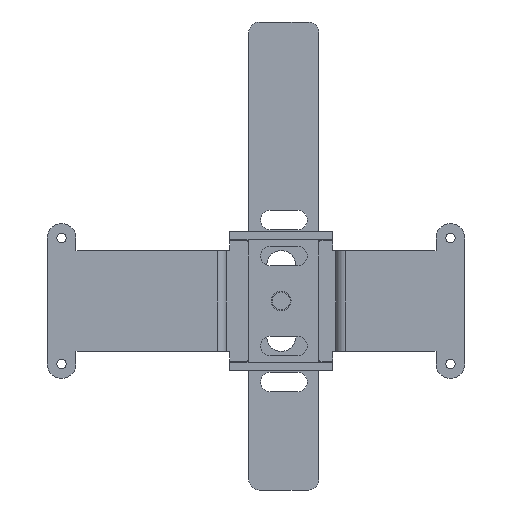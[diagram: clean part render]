
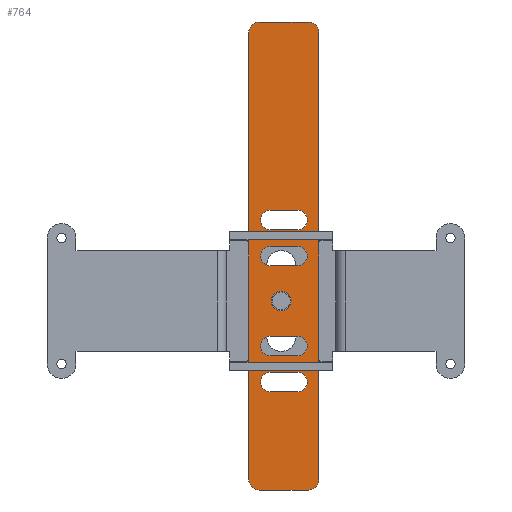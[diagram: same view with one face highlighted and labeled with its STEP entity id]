
A CAD part, front view. The second image highlights one B-rep face of the part: STEP entity #764.
In plain terms, the highlighted planar face has unit normal (0, -1, 0) as drawn and (0, 0, 1) by its records, which use the part's own axes.
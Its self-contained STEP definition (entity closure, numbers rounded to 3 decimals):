
#587=FACE_BOUND('',#1093,.T.);
#588=FACE_BOUND('',#1094,.T.);
#589=FACE_BOUND('',#1095,.T.);
#590=FACE_BOUND('',#1096,.T.);
#591=FACE_BOUND('',#1097,.T.);
#592=FACE_BOUND('',#1098,.T.);
#644=PLANE('',#3269);
#764=ADVANCED_FACE('',(#587,#588,#589,#590,#591,#592),#644,.T.);
#1093=EDGE_LOOP('',(#1843,#1844,#1845,#1846,#1847,#1848,#1849,#1850));
#1094=EDGE_LOOP('',(#1851,#1852));
#1095=EDGE_LOOP('',(#1853,#1854,#1855,#1856));
#1096=EDGE_LOOP('',(#1857,#1858,#1859,#1860));
#1097=EDGE_LOOP('',(#1861,#1862,#1863,#1864));
#1098=EDGE_LOOP('',(#1865,#1866,#1867,#1868));
#1231=CIRCLE('',#3253,2.75);
#1232=CIRCLE('',#3255,2.75);
#1233=CIRCLE('',#3257,3.);
#1234=CIRCLE('',#3258,3.);
#1235=CIRCLE('',#3259,3.);
#1236=CIRCLE('',#3260,3.);
#1237=CIRCLE('',#3261,2.75);
#1238=CIRCLE('',#3262,2.75);
#1239=CIRCLE('',#3263,2.75);
#1240=CIRCLE('',#3264,2.75);
#1241=CIRCLE('',#3265,2.75);
#1242=CIRCLE('',#3266,2.75);
#1243=CIRCLE('',#3267,2.75);
#1244=CIRCLE('',#3268,2.75);
#1843=ORIENTED_EDGE('',*,*,#2515,.T.);
#1844=ORIENTED_EDGE('',*,*,#2516,.T.);
#1845=ORIENTED_EDGE('',*,*,#2517,.T.);
#1846=ORIENTED_EDGE('',*,*,#2518,.T.);
#1847=ORIENTED_EDGE('',*,*,#2519,.T.);
#1848=ORIENTED_EDGE('',*,*,#2520,.T.);
#1849=ORIENTED_EDGE('',*,*,#2521,.T.);
#1850=ORIENTED_EDGE('',*,*,#2522,.T.);
#1851=ORIENTED_EDGE('',*,*,#2514,.T.);
#1852=ORIENTED_EDGE('',*,*,#2512,.T.);
#1853=ORIENTED_EDGE('',*,*,#2523,.T.);
#1854=ORIENTED_EDGE('',*,*,#2524,.T.);
#1855=ORIENTED_EDGE('',*,*,#2525,.T.);
#1856=ORIENTED_EDGE('',*,*,#2526,.T.);
#1857=ORIENTED_EDGE('',*,*,#2527,.T.);
#1858=ORIENTED_EDGE('',*,*,#2528,.T.);
#1859=ORIENTED_EDGE('',*,*,#2529,.T.);
#1860=ORIENTED_EDGE('',*,*,#2530,.T.);
#1861=ORIENTED_EDGE('',*,*,#2531,.T.);
#1862=ORIENTED_EDGE('',*,*,#2532,.T.);
#1863=ORIENTED_EDGE('',*,*,#2533,.T.);
#1864=ORIENTED_EDGE('',*,*,#2534,.T.);
#1865=ORIENTED_EDGE('',*,*,#2535,.T.);
#1866=ORIENTED_EDGE('',*,*,#2536,.T.);
#1867=ORIENTED_EDGE('',*,*,#2537,.T.);
#1868=ORIENTED_EDGE('',*,*,#2538,.T.);
#2177=VERTEX_POINT('',#4681);
#2178=VERTEX_POINT('',#4683);
#2179=VERTEX_POINT('',#4689);
#2180=VERTEX_POINT('',#4690);
#2181=VERTEX_POINT('',#4692);
#2182=VERTEX_POINT('',#4694);
#2183=VERTEX_POINT('',#4696);
#2184=VERTEX_POINT('',#4698);
#2185=VERTEX_POINT('',#4700);
#2186=VERTEX_POINT('',#4702);
#2187=VERTEX_POINT('',#4705);
#2188=VERTEX_POINT('',#4706);
#2189=VERTEX_POINT('',#4708);
#2190=VERTEX_POINT('',#4710);
#2191=VERTEX_POINT('',#4713);
#2192=VERTEX_POINT('',#4714);
#2193=VERTEX_POINT('',#4716);
#2194=VERTEX_POINT('',#4718);
#2195=VERTEX_POINT('',#4721);
#2196=VERTEX_POINT('',#4722);
#2197=VERTEX_POINT('',#4724);
#2198=VERTEX_POINT('',#4726);
#2199=VERTEX_POINT('',#4729);
#2200=VERTEX_POINT('',#4730);
#2201=VERTEX_POINT('',#4732);
#2202=VERTEX_POINT('',#4734);
#2512=EDGE_CURVE('',#2178,#2177,#1231,.T.);
#2514=EDGE_CURVE('',#2177,#2178,#1232,.T.);
#2515=EDGE_CURVE('',#2179,#2180,#2765,.T.);
#2516=EDGE_CURVE('',#2180,#2181,#1233,.T.);
#2517=EDGE_CURVE('',#2181,#2182,#2766,.T.);
#2518=EDGE_CURVE('',#2182,#2183,#1234,.T.);
#2519=EDGE_CURVE('',#2183,#2184,#2767,.T.);
#2520=EDGE_CURVE('',#2184,#2185,#1235,.T.);
#2521=EDGE_CURVE('',#2185,#2186,#2768,.T.);
#2522=EDGE_CURVE('',#2186,#2179,#1236,.T.);
#2523=EDGE_CURVE('',#2187,#2188,#1237,.T.);
#2524=EDGE_CURVE('',#2188,#2189,#2769,.T.);
#2525=EDGE_CURVE('',#2189,#2190,#1238,.T.);
#2526=EDGE_CURVE('',#2190,#2187,#2770,.T.);
#2527=EDGE_CURVE('',#2191,#2192,#1239,.T.);
#2528=EDGE_CURVE('',#2192,#2193,#2771,.T.);
#2529=EDGE_CURVE('',#2193,#2194,#1240,.T.);
#2530=EDGE_CURVE('',#2194,#2191,#2772,.T.);
#2531=EDGE_CURVE('',#2195,#2196,#1241,.T.);
#2532=EDGE_CURVE('',#2196,#2197,#2773,.T.);
#2533=EDGE_CURVE('',#2197,#2198,#1242,.T.);
#2534=EDGE_CURVE('',#2198,#2195,#2774,.T.);
#2535=EDGE_CURVE('',#2199,#2200,#2775,.T.);
#2536=EDGE_CURVE('',#2200,#2201,#1243,.T.);
#2537=EDGE_CURVE('',#2201,#2202,#2776,.T.);
#2538=EDGE_CURVE('',#2202,#2199,#1244,.T.);
#2765=LINE('',#4688,#3003);
#2766=LINE('',#4693,#3004);
#2767=LINE('',#4697,#3005);
#2768=LINE('',#4701,#3006);
#2769=LINE('',#4707,#3007);
#2770=LINE('',#4711,#3008);
#2771=LINE('',#4715,#3009);
#2772=LINE('',#4719,#3010);
#2773=LINE('',#4723,#3011);
#2774=LINE('',#4727,#3012);
#2775=LINE('',#4728,#3013);
#2776=LINE('',#4733,#3014);
#3003=VECTOR('',#3936,1.);
#3004=VECTOR('',#3939,1.);
#3005=VECTOR('',#3942,1.);
#3006=VECTOR('',#3945,1.);
#3007=VECTOR('',#3950,1.);
#3008=VECTOR('',#3953,1.);
#3009=VECTOR('',#3956,1.);
#3010=VECTOR('',#3959,1.);
#3011=VECTOR('',#3962,1.);
#3012=VECTOR('',#3965,1.);
#3013=VECTOR('',#3966,1.);
#3014=VECTOR('',#3969,1.);
#3253=AXIS2_PLACEMENT_3D('',#4682,#3927,#3928);
#3255=AXIS2_PLACEMENT_3D('',#4686,#3932,#3933);
#3257=AXIS2_PLACEMENT_3D('',#4691,#3937,#3938);
#3258=AXIS2_PLACEMENT_3D('',#4695,#3940,#3941);
#3259=AXIS2_PLACEMENT_3D('',#4699,#3943,#3944);
#3260=AXIS2_PLACEMENT_3D('',#4703,#3946,#3947);
#3261=AXIS2_PLACEMENT_3D('',#4704,#3948,#3949);
#3262=AXIS2_PLACEMENT_3D('',#4709,#3951,#3952);
#3263=AXIS2_PLACEMENT_3D('',#4712,#3954,#3955);
#3264=AXIS2_PLACEMENT_3D('',#4717,#3957,#3958);
#3265=AXIS2_PLACEMENT_3D('',#4720,#3960,#3961);
#3266=AXIS2_PLACEMENT_3D('',#4725,#3963,#3964);
#3267=AXIS2_PLACEMENT_3D('',#4731,#3967,#3968);
#3268=AXIS2_PLACEMENT_3D('',#4735,#3970,#3971);
#3269=AXIS2_PLACEMENT_3D('',#4736,#3972,#3973);
#3927=DIRECTION('',(0.,0.,-1.));
#3928=DIRECTION('',(1.,0.,0.));
#3932=DIRECTION('',(0.,0.,-1.));
#3933=DIRECTION('',(-1.,0.,0.));
#3936=DIRECTION('',(0.,1.,0.));
#3937=DIRECTION('',(0.,0.,1.));
#3938=DIRECTION('',(1.,0.,0.));
#3939=DIRECTION('',(-1.,0.,0.));
#3940=DIRECTION('',(0.,0.,1.));
#3941=DIRECTION('',(0.,1.,0.));
#3942=DIRECTION('',(0.,-1.,0.));
#3943=DIRECTION('',(0.,0.,1.));
#3944=DIRECTION('',(-1.,0.,0.));
#3945=DIRECTION('',(1.,0.,0.));
#3946=DIRECTION('',(0.,0.,1.));
#3947=DIRECTION('',(0.,-1.,0.));
#3948=DIRECTION('',(0.,0.,-1.));
#3949=DIRECTION('',(0.,1.,0.));
#3950=DIRECTION('',(-1.,0.,0.));
#3951=DIRECTION('',(0.,0.,-1.));
#3952=DIRECTION('',(0.,-1.,0.));
#3953=DIRECTION('',(1.,0.,0.));
#3954=DIRECTION('',(0.,0.,-1.));
#3955=DIRECTION('',(0.,1.,0.));
#3956=DIRECTION('',(-1.,0.,0.));
#3957=DIRECTION('',(0.,0.,-1.));
#3958=DIRECTION('',(0.,-1.,0.));
#3959=DIRECTION('',(1.,0.,0.));
#3960=DIRECTION('',(0.,0.,-1.));
#3961=DIRECTION('',(0.,1.,0.));
#3962=DIRECTION('',(-1.,0.,0.));
#3963=DIRECTION('',(0.,0.,-1.));
#3964=DIRECTION('',(0.,-1.,0.));
#3965=DIRECTION('',(1.,0.,0.));
#3966=DIRECTION('',(1.,0.,0.));
#3967=DIRECTION('',(0.,0.,-1.));
#3968=DIRECTION('',(0.,1.,0.));
#3969=DIRECTION('',(-1.,0.,0.));
#3970=DIRECTION('',(0.,0.,-1.));
#3971=DIRECTION('',(0.,-1.,0.));
#3972=DIRECTION('',(0.,0.,1.));
#3973=DIRECTION('',(-1.,0.,0.));
#4681=CARTESIAN_POINT('',(6.25,52.5,2.3));
#4682=CARTESIAN_POINT('',(9.,52.5,2.3));
#4683=CARTESIAN_POINT('',(11.75,52.5,2.3));
#4686=CARTESIAN_POINT('',(9.,52.5,2.3));
#4688=CARTESIAN_POINT('',(19.5,3.,2.3));
#4689=CARTESIAN_POINT('',(19.5,3.,2.3));
#4690=CARTESIAN_POINT('',(19.5,127.,2.3));
#4691=CARTESIAN_POINT('',(16.5,127.,2.3));
#4692=CARTESIAN_POINT('',(16.5,130.,2.3));
#4693=CARTESIAN_POINT('',(15.,130.,2.3));
#4694=CARTESIAN_POINT('',(3.,130.,2.3));
#4695=CARTESIAN_POINT('',(3.,127.,2.3));
#4696=CARTESIAN_POINT('',(0.,127.,2.3));
#4697=CARTESIAN_POINT('',(0.,127.,2.3));
#4698=CARTESIAN_POINT('',(0.,3.,2.3));
#4699=CARTESIAN_POINT('',(3.,3.,2.3));
#4700=CARTESIAN_POINT('',(3.,0.,2.3));
#4701=CARTESIAN_POINT('',(3.,0.,2.3));
#4702=CARTESIAN_POINT('',(16.5,0.,2.3));
#4703=CARTESIAN_POINT('',(16.5,3.,2.3));
#4704=CARTESIAN_POINT('',(13.5,65.,2.3));
#4705=CARTESIAN_POINT('',(13.5,67.75,2.3));
#4706=CARTESIAN_POINT('',(13.5,62.25,2.3));
#4707=CARTESIAN_POINT('',(12.,62.25,2.3));
#4708=CARTESIAN_POINT('',(6.,62.25,2.3));
#4709=CARTESIAN_POINT('',(6.,65.,2.3));
#4710=CARTESIAN_POINT('',(6.,67.75,2.3));
#4711=CARTESIAN_POINT('',(6.,67.75,2.3));
#4712=CARTESIAN_POINT('',(13.5,40.,2.3));
#4713=CARTESIAN_POINT('',(13.5,42.75,2.3));
#4714=CARTESIAN_POINT('',(13.5,37.25,2.3));
#4715=CARTESIAN_POINT('',(12.,37.25,2.3));
#4716=CARTESIAN_POINT('',(6.,37.25,2.3));
#4717=CARTESIAN_POINT('',(6.,40.,2.3));
#4718=CARTESIAN_POINT('',(6.,42.75,2.3));
#4719=CARTESIAN_POINT('',(6.,42.75,2.3));
#4720=CARTESIAN_POINT('',(13.5,30.,2.3));
#4721=CARTESIAN_POINT('',(13.5,32.75,2.3));
#4722=CARTESIAN_POINT('',(13.5,27.25,2.3));
#4723=CARTESIAN_POINT('',(12.,27.25,2.3));
#4724=CARTESIAN_POINT('',(6.,27.25,2.3));
#4725=CARTESIAN_POINT('',(6.,30.,2.3));
#4726=CARTESIAN_POINT('',(6.,32.75,2.3));
#4727=CARTESIAN_POINT('',(6.,32.75,2.3));
#4728=CARTESIAN_POINT('',(6.,77.75,2.3));
#4729=CARTESIAN_POINT('',(6.,77.75,2.3));
#4730=CARTESIAN_POINT('',(13.5,77.75,2.3));
#4731=CARTESIAN_POINT('',(13.5,75.,2.3));
#4732=CARTESIAN_POINT('',(13.5,72.25,2.3));
#4733=CARTESIAN_POINT('',(12.,72.25,2.3));
#4734=CARTESIAN_POINT('',(6.,72.25,2.3));
#4735=CARTESIAN_POINT('',(6.,75.,2.3));
#4736=CARTESIAN_POINT('',(0.,0.,2.3));
